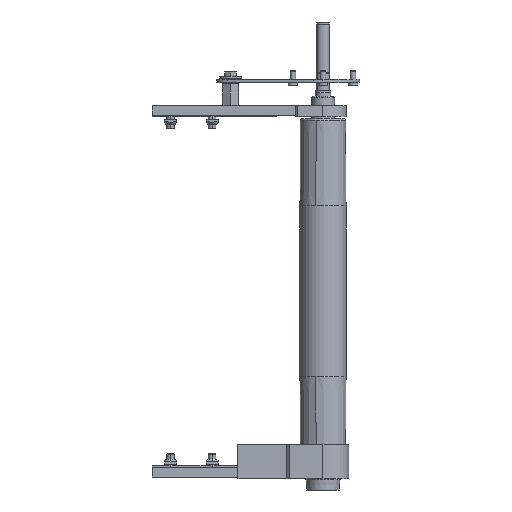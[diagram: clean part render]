
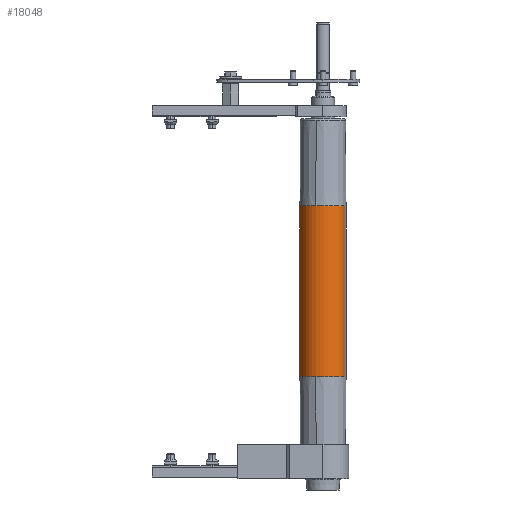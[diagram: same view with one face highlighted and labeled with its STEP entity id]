
A CAD part, front view. The second image highlights one B-rep face of the part: STEP entity #18048.
In plain terms, the highlighted cylindrical face has radius 25 mm (diameter 50 mm), a partial arc.
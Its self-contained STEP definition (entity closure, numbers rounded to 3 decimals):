
#118 = ORIENTED_EDGE ( 'NONE', *, *, #2881, .F. ) ;
#1230 = ORIENTED_EDGE ( 'NONE', *, *, #11306, .T. ) ;
#1262 = DIRECTION ( 'NONE',  ( -1., 0., 0. ) ) ;
#1346 = CARTESIAN_POINT ( 'NONE',  ( 185., 0., -25. ) ) ;
#1628 = AXIS2_PLACEMENT_3D ( 'NONE', #11808, #2545, #13378 ) ;
#1967 = AXIS2_PLACEMENT_3D ( 'NONE', #9061, #19832, #10593 ) ;
#1996 = AXIS2_PLACEMENT_3D ( 'NONE', #16556, #7323, #18087 ) ;
#2013 = VERTEX_POINT ( 'NONE', #2613 ) ;
#2250 = VERTEX_POINT ( 'NONE', #9517 ) ;
#2545 = DIRECTION ( 'NONE',  ( -1., 0., 0. ) ) ;
#2604 = CARTESIAN_POINT ( 'NONE',  ( 185., 0., 0. ) ) ;
#2613 = CARTESIAN_POINT ( 'NONE',  ( 92.5, 25., 0. ) ) ;
#2881 = EDGE_CURVE ( 'NONE', #9579, #6781, #15755, .T. ) ;
#2968 = ORIENTED_EDGE ( 'NONE', *, *, #6237, .F. ) ;
#3509 = VECTOR ( 'NONE', #16797, 1000. ) ;
#4195 = DIRECTION ( 'NONE',  ( -1., 0., 0. ) ) ;
#4403 = CIRCLE ( 'NONE', #1628, 25. ) ;
#5859 = CIRCLE ( 'NONE', #7016, 25. ) ;
#6237 = EDGE_CURVE ( 'NONE', #16566, #2250, #5859, .T. ) ;
#6646 = VERTEX_POINT ( 'NONE', #7821 ) ;
#6675 = CARTESIAN_POINT ( 'NONE',  ( -92.5, 0., 25. ) ) ;
#6781 = VERTEX_POINT ( 'NONE', #6675 ) ;
#7016 = AXIS2_PLACEMENT_3D ( 'NONE', #17667, #8434, #19238 ) ;
#7059 = CARTESIAN_POINT ( 'NONE',  ( 92.5, 0., 25. ) ) ;
#7060 = VECTOR ( 'NONE', #1262, 1000. ) ;
#7159 = ORIENTED_EDGE ( 'NONE', *, *, #7667, .F. ) ;
#7323 = DIRECTION ( 'NONE',  ( -1., 0., 0. ) ) ;
#7434 = CARTESIAN_POINT ( 'NONE',  ( 185., 0., 25. ) ) ;
#7623 = LINE ( 'NONE', #1346, #3509 ) ;
#7667 = EDGE_CURVE ( 'NONE', #6781, #16566, #14060, .T. ) ;
#7821 = CARTESIAN_POINT ( 'NONE',  ( 92.5, 0., -25. ) ) ;
#7863 = AXIS2_PLACEMENT_3D ( 'NONE', #2604, #4195, #8790 ) ;
#8434 = DIRECTION ( 'NONE',  ( -1., 0., 0. ) ) ;
#8790 = DIRECTION ( 'NONE',  ( 0., 0., 1. ) ) ;
#9061 = CARTESIAN_POINT ( 'NONE',  ( -92.5, 0., 0. ) ) ;
#9517 = CARTESIAN_POINT ( 'NONE',  ( -92.5, 0., -25. ) ) ;
#9579 = VERTEX_POINT ( 'NONE', #7059 ) ;
#10593 = DIRECTION ( 'NONE',  ( 0., -1., 0. ) ) ;
#11155 = CYLINDRICAL_SURFACE ( 'NONE', #7863, 25. ) ;
#11306 = EDGE_CURVE ( 'NONE', #6646, #2250, #7623, .T. ) ;
#11808 = CARTESIAN_POINT ( 'NONE',  ( 92.5, 0., 0. ) ) ;
#12350 = EDGE_CURVE ( 'NONE', #9579, #2013, #17233, .T. ) ;
#13378 = DIRECTION ( 'NONE',  ( 0., -1., 0. ) ) ;
#14060 = CIRCLE ( 'NONE', #1967, 25. ) ;
#15755 = LINE ( 'NONE', #7434, #7060 ) ;
#16248 = CARTESIAN_POINT ( 'NONE',  ( -92.5, 25., 0. ) ) ;
#16556 = CARTESIAN_POINT ( 'NONE',  ( 92.5, 0., 0. ) ) ;
#16566 = VERTEX_POINT ( 'NONE', #16248 ) ;
#16797 = DIRECTION ( 'NONE',  ( -1., 0., 0. ) ) ;
#17022 = ORIENTED_EDGE ( 'NONE', *, *, #12350, .T. ) ;
#17233 = CIRCLE ( 'NONE', #1996, 25. ) ;
#17451 = EDGE_LOOP ( 'NONE', ( #17022, #19743, #1230, #2968, #7159, #118 ) ) ;
#17667 = CARTESIAN_POINT ( 'NONE',  ( -92.5, 0., 0. ) ) ;
#18023 = EDGE_CURVE ( 'NONE', #2013, #6646, #4403, .T. ) ;
#18048 = ADVANCED_FACE ( 'NONE', ( #19380 ), #11155, .T. ) ;
#18087 = DIRECTION ( 'NONE',  ( 0., -1., 0. ) ) ;
#19238 = DIRECTION ( 'NONE',  ( 0., -1., 0. ) ) ;
#19380 = FACE_OUTER_BOUND ( 'NONE', #17451, .T. ) ;
#19743 = ORIENTED_EDGE ( 'NONE', *, *, #18023, .T. ) ;
#19832 = DIRECTION ( 'NONE',  ( -1., 0., 0. ) ) ;
